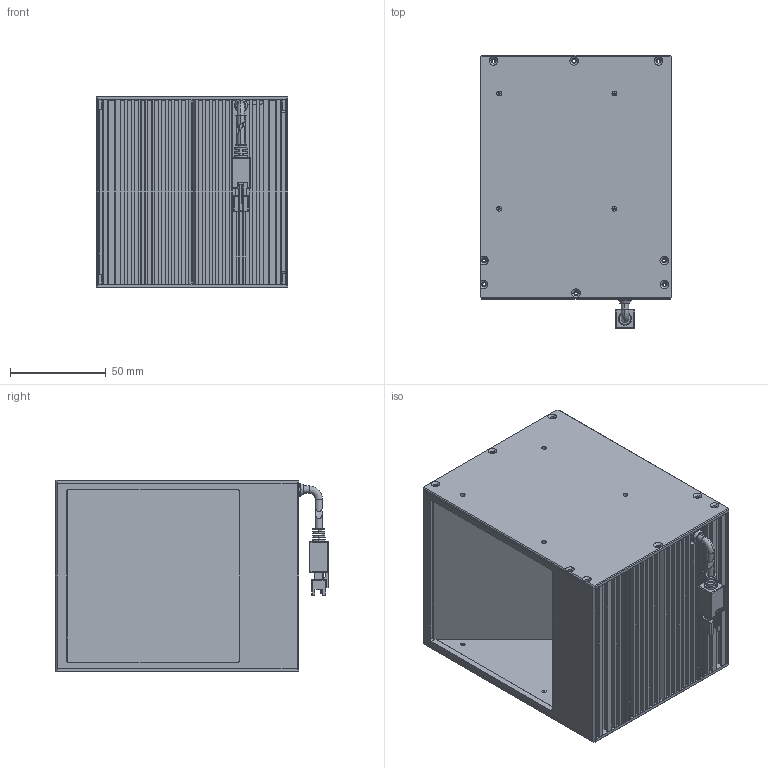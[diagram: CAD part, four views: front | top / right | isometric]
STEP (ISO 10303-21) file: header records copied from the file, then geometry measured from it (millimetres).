
FILE_DESCRIPTION (( 'STEP AP203' ), '1' );
FILE_NAME ('PPX-CO100S-W.STEP', '2022-09-13T03:57:13', ( 'Windows 蚚誧' ), ( 'Microsoft' ), 'SwSTEP 2.0', 'SolidWorks 2016', '' );
FILE_SCHEMA (( 'CONFIG_CONTROL_DESIGN' ));
Length unit declared in the file: millimetre
Products named in the file (2): PPX-CO100S-W
Bounding box: 100 x 142.55 x 100 mm (x, y, z)
Surface area: 145597.1 mm2 (no closed solid volume)
Topology: 0 solids, 13 shells, 462 faces, 1743 edges, 1231 vertices
Faces by surface type: plane 244, cylinder 173, cone 39, torus 3, bspline 2, sphere 1
Entity records: 18693 total; most frequent: CARTESIAN_POINT 3738, DIRECTION 3150, ORIENTED_EDGE 2789, EDGE_CURVE 1742, VERTEX_POINT 1231, LINE 1172, VECTOR 1172, AXIS2_PLACEMENT_3D 989
